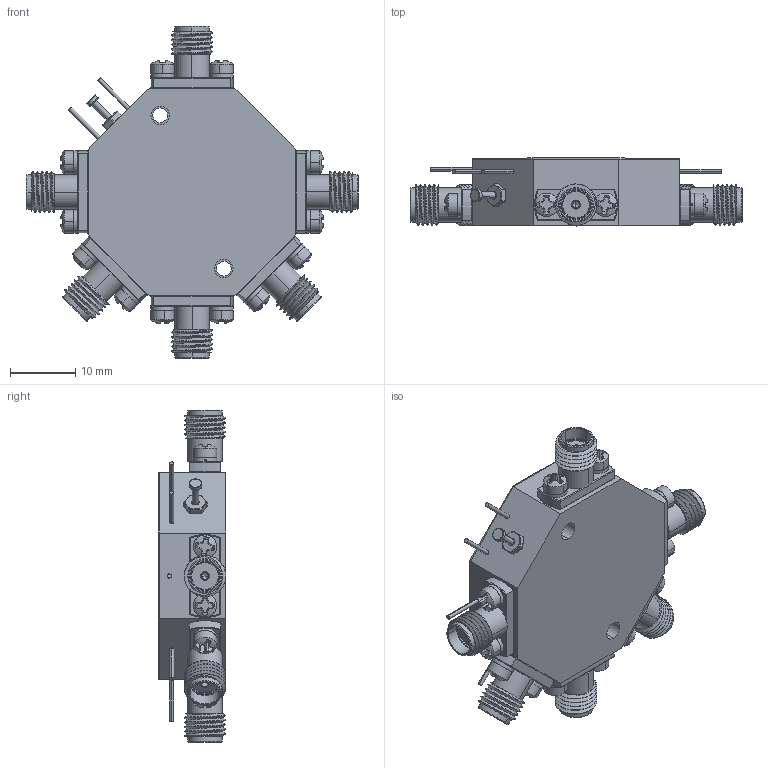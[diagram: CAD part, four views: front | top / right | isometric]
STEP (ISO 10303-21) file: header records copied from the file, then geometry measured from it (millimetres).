
FILE_DESCRIPTION (( 'STEP AP214' ), '1' );
FILE_NAME ('3D Model.STEP', '2024-08-05T21:13:22', ( '' ), ( '' ), 'SwSTEP 2.0', 'SolidWorks 2023', '' );
FILE_SCHEMA (( 'AUTOMOTIVE_DESIGN' ));
Length unit declared in the file: inch
Products named in the file (1): 3D Model
Bounding box: 50.8 x 10.34 x 50.8 mm (x, y, z)
Volume: 10352.1 mm3; surface area: 8615.4 mm2
Topology: 46 solids, 46 shells, 1448 faces, 4545 edges, 3387 vertices
Faces by surface type: plane 608, cylinder 381, torus 267, cone 117, sphere 51, bspline 24
Entity records: 63203 total; most frequent: CARTESIAN_POINT 21936, ORIENTED_EDGE 9018, DIRECTION 7997, EDGE_CURVE 4509, VERTEX_POINT 3387, AXIS2_PLACEMENT_3D 3024, VECTOR 1949, LINE 1949
